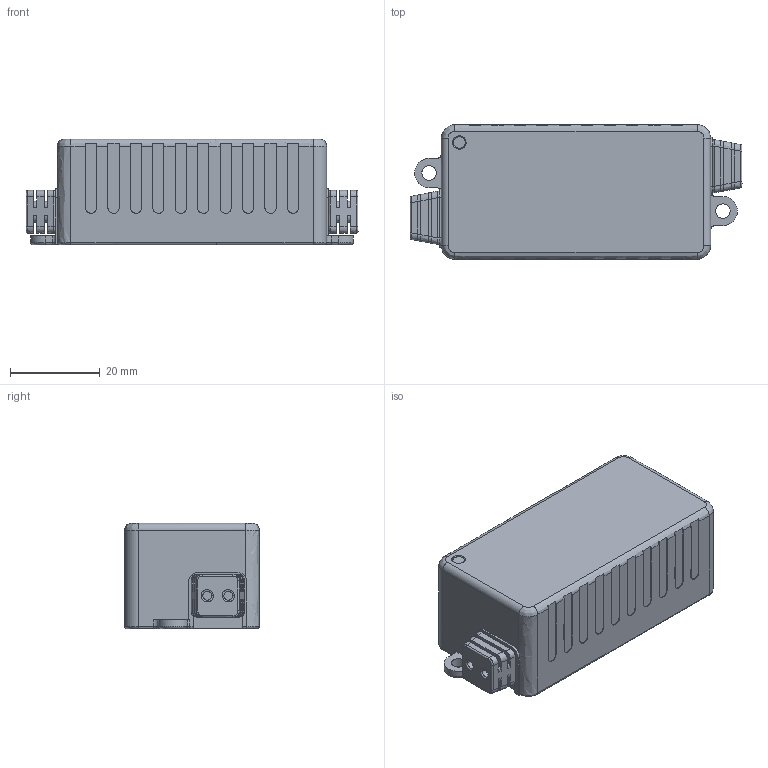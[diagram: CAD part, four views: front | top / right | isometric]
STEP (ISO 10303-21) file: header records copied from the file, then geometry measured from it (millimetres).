
FILE_DESCRIPTION(/* description */ (''),/* implementation_level */ '2;1');
FILE_NAME(/* name */ 'SH-8-X~2',/* time_stamp */ '2023-07-05T11:09:47+08:00',/* author */ (''),/* organization */ (''),/* preprocessor_version */ 'ST-DEVELOPER v16.5',/* originating_system */ '',/* authorisation */ '');
FILE_SCHEMA (('AUTOMOTIVE_DESIGN'));
Length unit declared in the file: millimetre
Products named in the file (1): Document
Bounding box: 74 x 30 x 23.5 mm (x, y, z)
Volume: 42975.5 mm3; surface area: 9335 mm2
Topology: 3 solids, 3 shells, 297 faces, 804 edges, 514 vertices
Faces by surface type: bspline 164, plane 133
Entity records: 11454 total; most frequent: CARTESIAN_POINT 6509, ORIENTED_EDGE 1608, EDGE_CURVE 804, B_SPLINE_CURVE_WITH_KNOTS 600, VERTEX_POINT 514, EDGE_LOOP 310, ADVANCED_FACE 297, FACE_OUTER_BOUND 297
